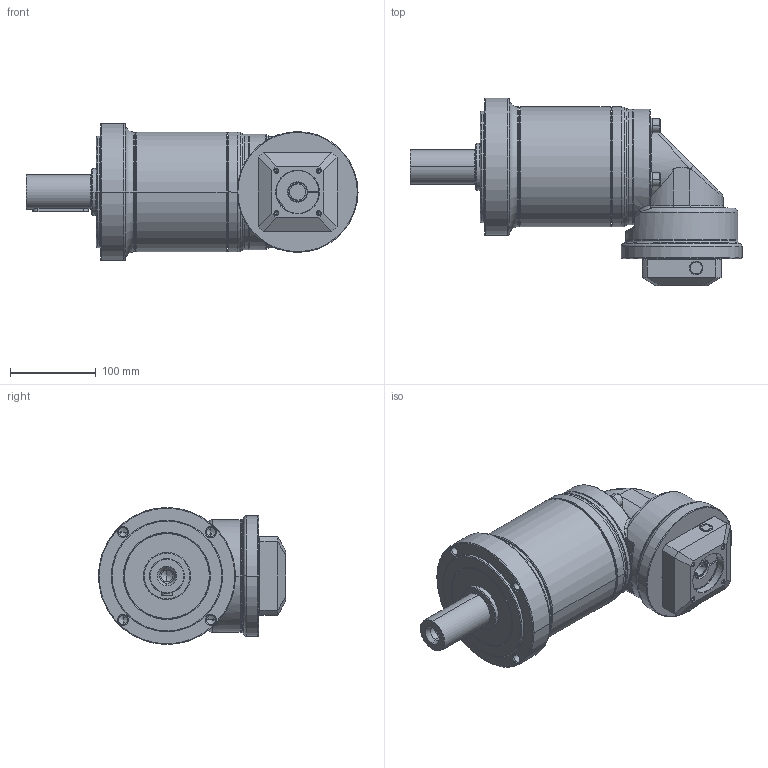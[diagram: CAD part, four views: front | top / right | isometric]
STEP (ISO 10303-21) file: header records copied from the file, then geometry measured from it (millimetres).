
FILE_DESCRIPTION((''),'2;1');
FILE_NAME('PG2R-160_2ST_19-P0411400101_ASM','2016-04-25T',('d01943'),(''),'PRO/ENGINEER BY PARAMETRIC TECHNOLOGY CORPORATION, 2008410','PRO/ENGINEER BY PARAMETRIC TECHNOLOGY CORPORATION, 2008410','');
FILE_SCHEMA(('CONFIG_CONTROL_DESIGN'));
Length unit declared in the file: millimetre
Products named in the file (12): P1325510001; P0251500001; P0350501103; P1349500001; P1017500001; P0713500001; P0503400008; P1350500001; P0411400101; P1702500001; 2111BA10040; PG2R-160_2ST_19-P0411400101_ASM
Assembly tree (14 placements, depth 2):
  PG2R-160_2ST_19-P0411400101_ASM
    P1325510001
    P0251500001
    P0350501103
    P1349500001
    P1017500001
    P0713500001
    P0503400008
    P1350500001
    P0411400101
    P1702500001
    2111BA10040  x4
Bounding box: 387.5 x 218.5 x 160 mm (x, y, z)
Volume: 2892503.2 mm3; surface area: 476994.7 mm2
Topology: 14 solids, 15 shells, 715 faces, 1571 edges, 910 vertices
Faces by surface type: cylinder 221, cone 198, plane 156, torus 108, bspline 32
Entity records: 22801 total; most frequent: CARTESIAN_POINT 8992, DIRECTION 3071, ORIENTED_EDGE 2666, EDGE_CURVE 1333, AXIS2_PLACEMENT_3D 1301, VERTEX_POINT 790, EDGE_LOOP 693, CIRCLE 691
